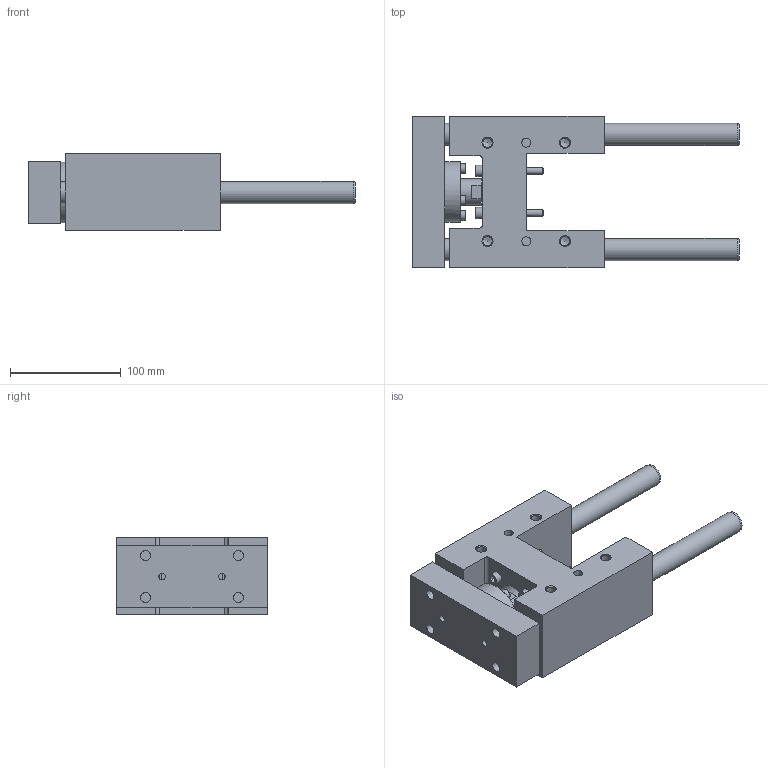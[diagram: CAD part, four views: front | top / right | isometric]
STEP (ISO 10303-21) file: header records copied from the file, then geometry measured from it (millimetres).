
FILE_DESCRIPTION( ( 'STEP AP214' ), '1' );
FILE_NAME( 'U:/Etudes/Top Solid/BIBLIO 3D AVM/TOP/PNEUMATIQUE/GUIDAGES/Type 32 (en H)/R_Renforcée/325R2_30.step', '2005-05-27T08:55:34', ( ' ' ), ( ' ' ), 'XStep 1.0', ' ', ' ' );
FILE_SCHEMA( ( 'automotive_design' ) );
Length unit declared in the file: metre
Products named in the file (2): 1; 2
Bounding box: 295 x 137 x 69 mm (x, y, z)
Volume: 1131560.3 mm3; surface area: 180884 mm2
Topology: 2 solids, 7 shells, 223 faces, 504 edges, 337 vertices
Faces by surface type: plane 128, cylinder 74, cone 21
Full cylindrical faces by diameter (mm): 5 x8, 6 x10, 6.5 x8, 6.647 x4, 8 x2, 8.376 x8, 8.5 x4, 9 x4, 10 x4, 10.2 x4, 10.647 x2, 15 x4, 20 x4, 24 x1, 26 x1, 34 x1, 35 x1, 37 x1, 55 x1
Entity records: 7481 total; most frequent: CARTESIAN_POINT 1145, DIRECTION 956, ORIENTED_EDGE 724, EDGE_LOOP 386, AXIS2_PLACEMENT_3D 377, EDGE_CURVE 362, FACE_OUTER_BOUND 295, VERTEX_POINT 294
